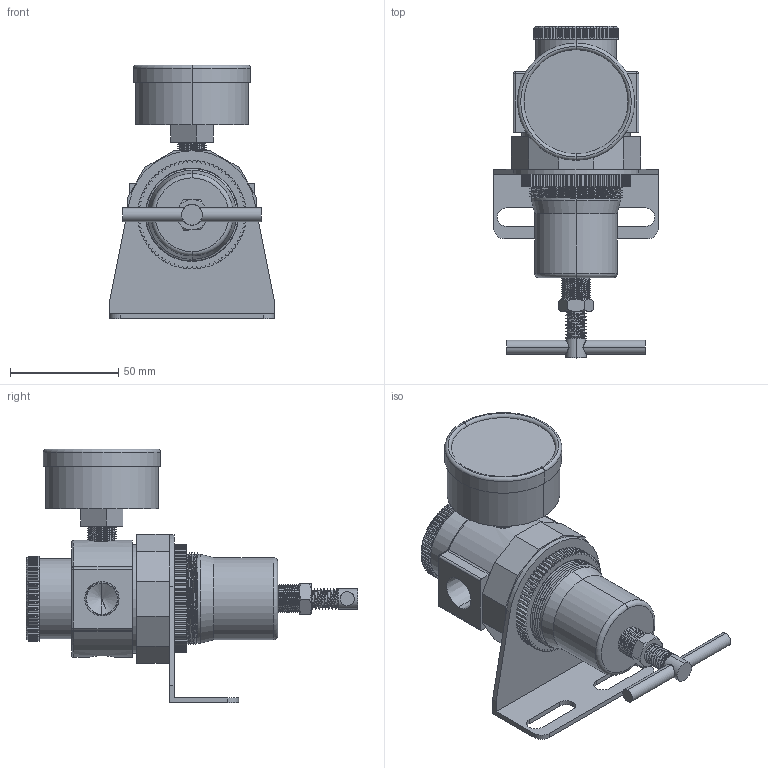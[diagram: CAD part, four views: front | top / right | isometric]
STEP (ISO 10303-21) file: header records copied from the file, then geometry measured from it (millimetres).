
FILE_DESCRIPTION (( 'STEP AP203' ), '1' );
FILE_NAME ('R011-03GB#.STEP', '2016-02-16T06:04:35', ( 'Toshiba' ), ( 'Toshiba' ), 'SwSTEP 2.0', 'SolidWorks 2014', '' );
FILE_SCHEMA (( 'CONFIG_CONTROL_DESIGN' ));
Length unit declared in the file: millimetre
Products named in the file (13): R011-03GB#; 50-P-AD=1-4PT.SLDPRT; R011-1; R010-1(03); R119-02-5; R119-02-6; 50-P-AD=1-4PT-1; KWSAR10Y57; KWR10X51; R119-02-7; R010-2; 50-P-AD=1-4PT-2; KWSAR10Y57-1
Assembly tree (12 placements, depth 3):
  R011-03GB#
    R010-1(03)
    R010-2
    KWSAR10Y57
      KWSAR10Y57-1
      KWR10X51
    R011-1
    R119-02-5
    R119-02-6
    R119-02-7
    50-P-AD=1-4PT.SLDPRT
      50-P-AD=1-4PT-1
      50-P-AD=1-4PT-2
Bounding box: 76 x 153 x 117 mm (x, y, z)
Volume: 268405.9 mm3; surface area: 63382.7 mm2
Topology: 10 solids, 10 shells, 735 faces, 2075 edges, 1361 vertices
Faces by surface type: plane 364, cylinder 314, cone 32, torus 13, bspline 8, sphere 4
Entity records: 31358 total; most frequent: CARTESIAN_POINT 11615, ORIENTED_EDGE 4126, DIRECTION 3601, EDGE_CURVE 2063, VERTEX_POINT 1361, AXIS2_PLACEMENT_3D 1207, VECTOR 1187, LINE 1187
